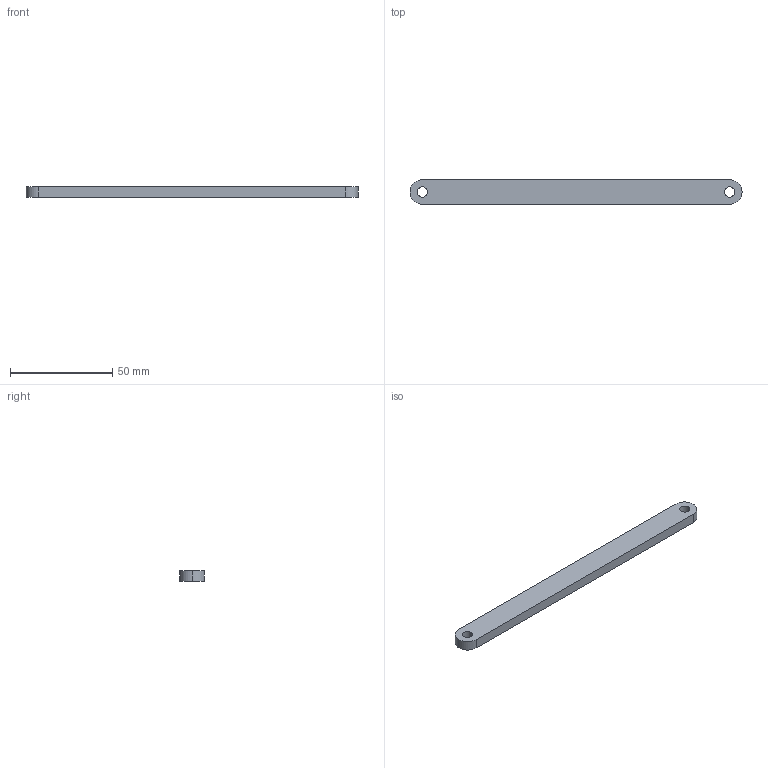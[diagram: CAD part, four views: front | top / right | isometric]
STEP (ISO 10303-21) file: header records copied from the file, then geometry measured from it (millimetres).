
FILE_DESCRIPTION (( 'STEP AP203' ), '1' );
FILE_NAME ('Biela.STEP', '2025-11-09T19:59:25', ( 'msi i7' ), ( '' ), 'SwSTEP 2.0', 'SolidWorks 2025', '' );
FILE_SCHEMA (( 'CONFIG_CONTROL_DESIGN' ));
Length unit declared in the file: millimetre
Products named in the file (1): Biela
Bounding box: 162 x 12 x 5 mm (x, y, z)
Volume: 9369.1 mm3; surface area: 5593.2 mm2
Topology: 1 solids, 1 shells, 11 faces, 27 edges, 18 vertices
Faces by surface type: cylinder 7, plane 4
Entity records: 420 total; most frequent: DIRECTION 65, CARTESIAN_POINT 57, ORIENTED_EDGE 54, EDGE_CURVE 27, AXIS2_PLACEMENT_3D 26, VERTEX_POINT 18, EDGE_LOOP 15, CIRCLE 14
